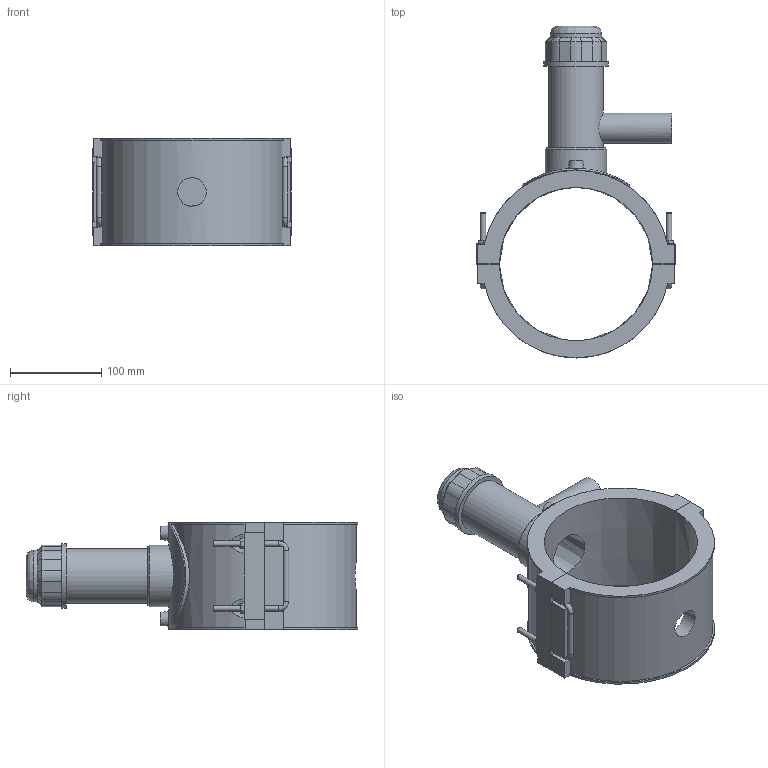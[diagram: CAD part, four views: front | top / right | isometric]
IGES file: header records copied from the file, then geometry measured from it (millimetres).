
Global section: file name: 5963BB03060010.ipt; native system: Autodesk Inventor 2019; preprocessor: unknown; author: KIM; date: 20210830.101422; units: millimetre
Bounding box: 217.9 x 363.85 x 118.11 mm (x, y, z)
Volume: 1521521.7 mm3; surface area: 255941.9 mm2
Topology: 1 solids, 1 shells, 195 faces, 507 edges, 330 vertices
Faces by surface type: plane 120, cylinder 35, revolution 20, cone 15, bspline 5
Full cylindrical faces by diameter (mm): 4 x2, 6 x10, 33.3 x1, 56.448 x1, 59.976 x1, 67.032 x1, 70.56 x1, 117.6 x1
